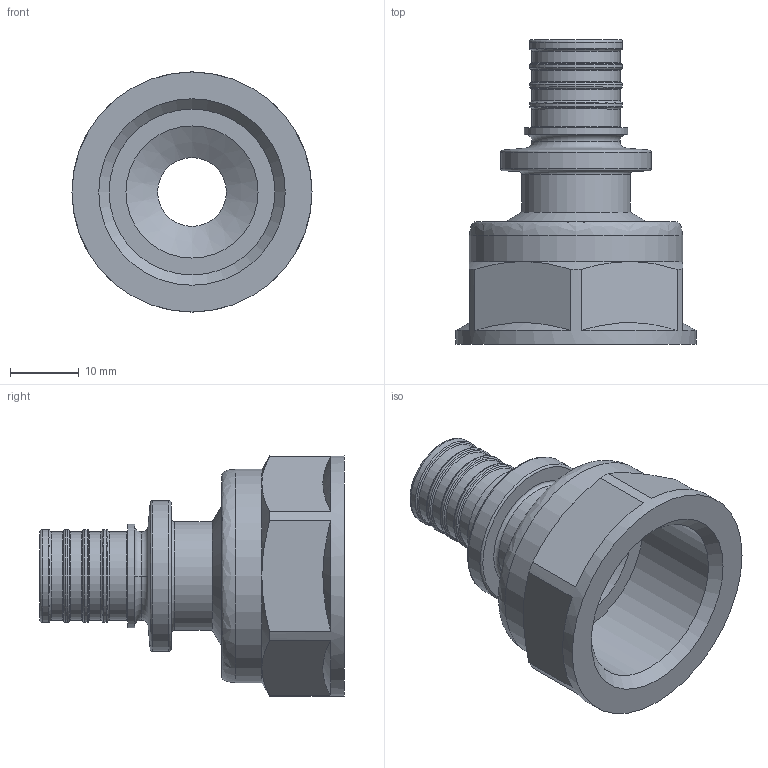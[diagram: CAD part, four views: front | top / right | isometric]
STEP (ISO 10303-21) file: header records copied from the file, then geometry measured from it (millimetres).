
FILE_DESCRIPTION(('STEP AP203'), '1');
FILE_NAME('ﾂﾐ.753124.008 - VTm.402.G.001605 ﾔ頸. 浯葢 G 3-4', '2024-01-23T13:17:19', ('IT'), ('VESTA'), 'C3D Converter', 'C3D Toolkit', '');
FILE_SCHEMA(('CONFIG_CONTROL_DESIGN'));
Length unit declared in the file: millimetre
Products named in the file (1): ВР.753124.008
Bounding box: 34.9 x 44.3 x 34.9 mm (x, y, z)
Volume: 9981.3 mm3; surface area: 7015.5 mm2
Topology: 1 solids, 1 shells, 69 faces, 146 edges, 84 vertices
Faces by surface type: torus 23, cone 17, cylinder 15, plane 13, bspline 1
Full cylindrical faces by diameter (mm): 10 x1, 12.8 x4, 13.5 x4, 15 x1, 15.8 x1, 21.9 x1, 24.118 x1, 31 x1, 34.9 x1
Entity records: 2311 total; most frequent: CARTESIAN_POINT 939, DIRECTION 302, ORIENTED_EDGE 212, AXIS2_PLACEMENT_3D 145, EDGE_LOOP 116, EDGE_CURVE 106, VERTEX_POINT 84, CIRCLE 76
